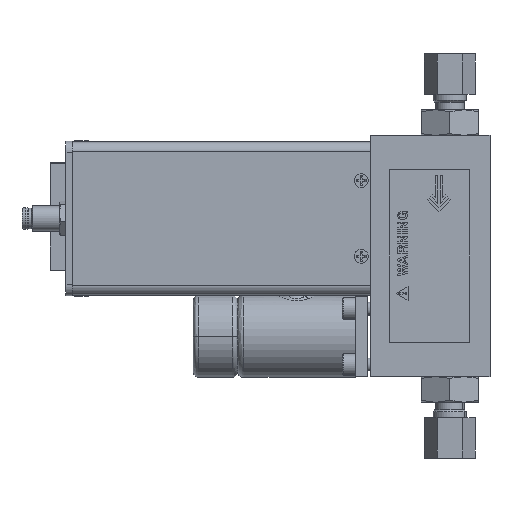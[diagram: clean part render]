
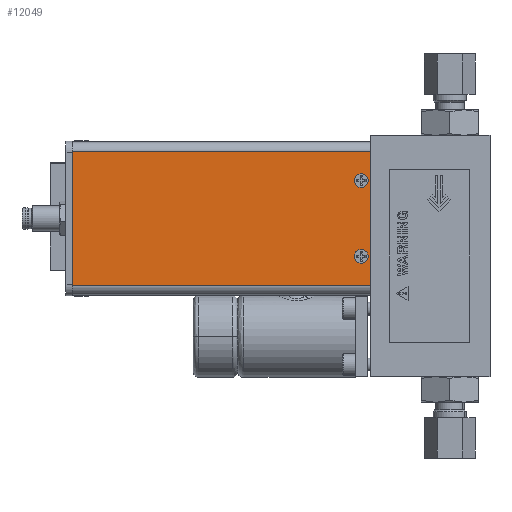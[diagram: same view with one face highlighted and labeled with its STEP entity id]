
A CAD part, left-side view. The second image highlights one B-rep face of the part: STEP entity #12049.
In plain terms, the highlighted planar face has unit normal (-1, 0, 0).
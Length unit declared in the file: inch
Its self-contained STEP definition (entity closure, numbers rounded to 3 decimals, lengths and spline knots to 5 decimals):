
#206 = EDGE_CURVE ( 'NONE', #68674, #24859, #26123, .T. ) ;
#788 = EDGE_CURVE ( 'NONE', #24859, #21372, #62697, .T. ) ;
#1429 = DIRECTION ( 'NONE',  ( -1., 0., 0. ) ) ;
#2107 = ORIENTED_EDGE ( 'NONE', *, *, #53640, .F. ) ;
#3965 = CARTESIAN_POINT ( 'NONE',  ( -0.73289, 1.485, -1.864 ) ) ;
#5331 = DIRECTION ( 'NONE',  ( 0., -1., 0. ) ) ;
#6069 = ORIENTED_EDGE ( 'NONE', *, *, #10981, .T. ) ;
#6437 = DIRECTION ( 'NONE',  ( 0., -1., 0. ) ) ;
#6698 = CARTESIAN_POINT ( 'NONE',  ( -0.73289, 1.6661, -1.50844 ) ) ;
#6816 = DIRECTION ( 'NONE',  ( 1., 0., 0. ) ) ;
#7222 = CARTESIAN_POINT ( 'NONE',  ( -0.73289, 1.485, -0.208 ) ) ;
#7330 = VECTOR ( 'NONE', #54678, 39.37008 ) ;
#7788 = CARTESIAN_POINT ( 'NONE',  ( -0.73289, 5.19953, -1.864 ) ) ;
#8484 = CIRCLE ( 'NONE', #25734, 0.06299 ) ;
#10981 = EDGE_CURVE ( 'NONE', #43531, #42616, #32910, .T. ) ;
#11159 = CARTESIAN_POINT ( 'NONE',  ( -0.73289, 1.60311, -1.50844 ) ) ;
#11780 = ORIENTED_EDGE ( 'NONE', *, *, #75331, .T. ) ;
#11884 = PLANE ( 'NONE',  #45306 ) ;
#12049 = ADVANCED_FACE ( 'NONE', ( #65547, #36947, #64773 ), #11884, .T. ) ;
#13452 = CARTESIAN_POINT ( 'NONE',  ( -0.73289, 1.54012, -0.56356 ) ) ;
#16495 = DIRECTION ( 'NONE',  ( 0., -1., 0. ) ) ;
#17249 = VECTOR ( 'NONE', #34087, 39.37008 ) ;
#21372 = VERTEX_POINT ( 'NONE', #3965 ) ;
#24696 = EDGE_LOOP ( 'NONE', ( #11780, #33703 ) ) ;
#24859 = VERTEX_POINT ( 'NONE', #33198 ) ;
#24925 = ORIENTED_EDGE ( 'NONE', *, *, #206, .F. ) ;
#24983 = DIRECTION ( 'NONE',  ( 0., 1., 0. ) ) ;
#25734 = AXIS2_PLACEMENT_3D ( 'NONE', #34741, #47090, #58650 ) ;
#26123 = LINE ( 'NONE', #7222, #7330 ) ;
#27710 = CARTESIAN_POINT ( 'NONE',  ( -0.73289, 1.60311, -1.50844 ) ) ;
#29396 = CIRCLE ( 'NONE', #42940, 0.06299 ) ;
#29495 = LINE ( 'NONE', #53020, #33736 ) ;
#30567 = VERTEX_POINT ( 'NONE', #7788 ) ;
#32910 = CIRCLE ( 'NONE', #36579, 0.06299 ) ;
#33198 = CARTESIAN_POINT ( 'NONE',  ( -0.73289, 1.485, -0.208 ) ) ;
#33340 = CARTESIAN_POINT ( 'NONE',  ( -0.73289, 1.485, -1.036 ) ) ;
#33703 = ORIENTED_EDGE ( 'NONE', *, *, #46175, .T. ) ;
#33736 = VECTOR ( 'NONE', #46472, 39.37008 ) ;
#34087 = DIRECTION ( 'NONE',  ( 0., 0., -1. ) ) ;
#34099 = VERTEX_POINT ( 'NONE', #38306 ) ;
#34741 = CARTESIAN_POINT ( 'NONE',  ( -0.73289, 1.60311, -0.56356 ) ) ;
#35042 = DIRECTION ( 'NONE',  ( 1., 0., 0. ) ) ;
#35195 = EDGE_CURVE ( 'NONE', #21372, #30567, #73935, .T. ) ;
#36579 = AXIS2_PLACEMENT_3D ( 'NONE', #53920, #6816, #6437 ) ;
#36947 = FACE_BOUND ( 'NONE', #24696, .T. ) ;
#37240 = CARTESIAN_POINT ( 'NONE',  ( -0.73289, 1.485, -1.864 ) ) ;
#38306 = CARTESIAN_POINT ( 'NONE',  ( -0.73289, 1.54012, -1.50844 ) ) ;
#38462 = AXIS2_PLACEMENT_3D ( 'NONE', #11159, #35042, #5331 ) ;
#42616 = VERTEX_POINT ( 'NONE', #51210 ) ;
#42940 = AXIS2_PLACEMENT_3D ( 'NONE', #27710, #68262, #16495 ) ;
#43531 = VERTEX_POINT ( 'NONE', #13452 ) ;
#44462 = ORIENTED_EDGE ( 'NONE', *, *, #788, .F. ) ;
#45306 = AXIS2_PLACEMENT_3D ( 'NONE', #54325, #1429, #24983 ) ;
#46175 = EDGE_CURVE ( 'NONE', #49743, #34099, #29396, .T. ) ;
#46472 = DIRECTION ( 'NONE',  ( 0., 0., 1. ) ) ;
#47090 = DIRECTION ( 'NONE',  ( 1., 0., 0. ) ) ;
#48578 = CARTESIAN_POINT ( 'NONE',  ( -0.73289, 5.19953, -0.208 ) ) ;
#49743 = VERTEX_POINT ( 'NONE', #6698 ) ;
#49977 = DIRECTION ( 'NONE',  ( 0., 1., 0. ) ) ;
#51210 = CARTESIAN_POINT ( 'NONE',  ( -0.73289, 1.6661, -0.56356 ) ) ;
#53020 = CARTESIAN_POINT ( 'NONE',  ( -0.73289, 5.19953, -1.036 ) ) ;
#53640 = EDGE_CURVE ( 'NONE', #30567, #68674, #29495, .T. ) ;
#53920 = CARTESIAN_POINT ( 'NONE',  ( -0.73289, 1.60311, -0.56356 ) ) ;
#54325 = CARTESIAN_POINT ( 'NONE',  ( -0.73289, 1.485, -1.036 ) ) ;
#54620 = ORIENTED_EDGE ( 'NONE', *, *, #35195, .F. ) ;
#54678 = DIRECTION ( 'NONE',  ( 0., -1., 0. ) ) ;
#55308 = EDGE_LOOP ( 'NONE', ( #2107, #54620, #44462, #24925 ) ) ;
#58650 = DIRECTION ( 'NONE',  ( 0., -1., 0. ) ) ;
#58857 = EDGE_LOOP ( 'NONE', ( #6069, #64389 ) ) ;
#59025 = EDGE_CURVE ( 'NONE', #42616, #43531, #8484, .T. ) ;
#61345 = VECTOR ( 'NONE', #49977, 39.37008 ) ;
#61952 = CIRCLE ( 'NONE', #38462, 0.06299 ) ;
#62697 = LINE ( 'NONE', #33340, #17249 ) ;
#64389 = ORIENTED_EDGE ( 'NONE', *, *, #59025, .T. ) ;
#64773 = FACE_BOUND ( 'NONE', #58857, .T. ) ;
#65547 = FACE_OUTER_BOUND ( 'NONE', #55308, .T. ) ;
#68262 = DIRECTION ( 'NONE',  ( 1., 0., 0. ) ) ;
#68674 = VERTEX_POINT ( 'NONE', #48578 ) ;
#73935 = LINE ( 'NONE', #37240, #61345 ) ;
#75331 = EDGE_CURVE ( 'NONE', #34099, #49743, #61952, .T. ) ;
